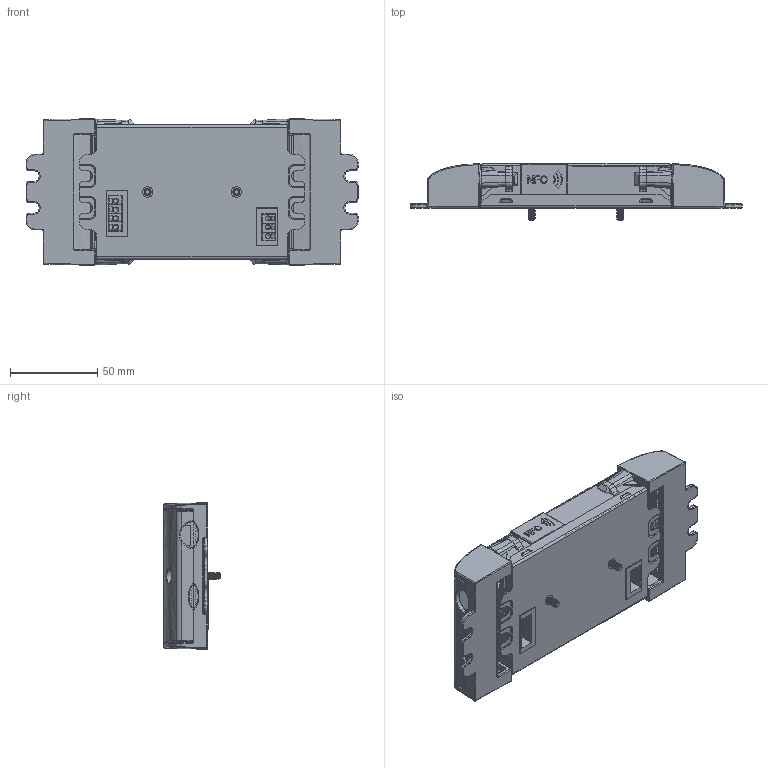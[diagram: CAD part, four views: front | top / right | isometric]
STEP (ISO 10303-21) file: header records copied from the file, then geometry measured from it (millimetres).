
FILE_DESCRIPTION (( 'STEP AP214' ), '1' );
FILE_NAME ('Vesta Flex Driver_Brick (Strain Relief).STEP', '2020-09-23T01:14:26', ( '' ), ( '' ), 'SwSTEP 2.0', 'SolidWorks 2020', '' );
FILE_SCHEMA (( 'AUTOMOTIVE_DESIGN' ));
Length unit declared in the file: millimetre
Products named in the file (1): Vesta Flex Driver_Brick (Strain Relief)
Bounding box: 190.08 x 32.2 x 83.91 mm (x, y, z)
Volume: 68749.6 mm3; surface area: 109933.5 mm2
Topology: 18 solids, 18 shells, 3936 faces, 10430 edges, 6597 vertices
Faces by surface type: plane 2478, cylinder 911, bspline 300, cone 133, torus 74, sphere 40
Full cylindrical faces by diameter (mm): 3.797 x2, 6.858 x2
Entity records: 188668 total; most frequent: CARTESIAN_POINT 51002, ORIENTED_EDGE 20726, DIRECTION 17933, EDGE_CURVE 10363, VECTOR 7429, LINE 7429, VERTEX_POINT 6577, AXIS2_PLACEMENT_3D 5252
